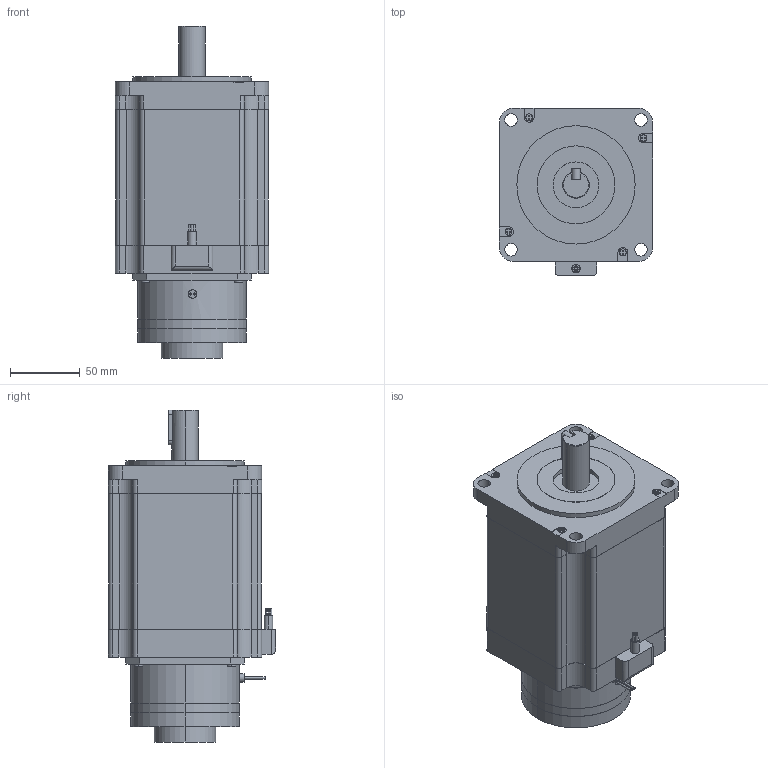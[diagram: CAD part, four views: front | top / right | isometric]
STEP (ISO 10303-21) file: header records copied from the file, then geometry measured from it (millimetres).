
FILE_DESCRIPTION (( 'STEP AP203' ), '1' );
FILE_NAME ('UB110D24-D60-4150.STEP', '2019-11-16T03:10:18', ( 'China' ), ( 'Home' ), 'SwSTEP 2.0', 'SolidWorks 2016', '' );
FILE_SCHEMA (( 'CONFIG_CONTROL_DESIGN' ));
Length unit declared in the file: millimetre
Products named in the file (1): UB110D24-D60-4150
Bounding box: 110 x 120 x 238.5 mm (x, y, z)
Volume: 1809225.5 mm3; surface area: 124130.6 mm2
Topology: 2 solids, 3 shells, 298 faces, 764 edges, 507 vertices
Faces by surface type: plane 184, cylinder 111, torus 3
Entity records: 9238 total; most frequent: CARTESIAN_POINT 1684, DIRECTION 1575, ORIENTED_EDGE 1528, EDGE_CURVE 764, VECTOR 535, LINE 535, AXIS2_PLACEMENT_3D 520, VERTEX_POINT 507
